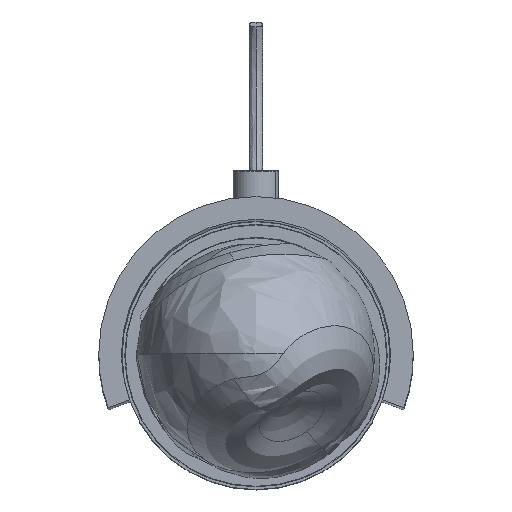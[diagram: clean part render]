
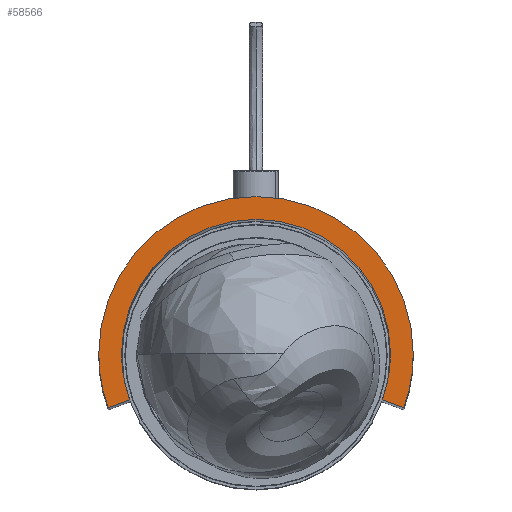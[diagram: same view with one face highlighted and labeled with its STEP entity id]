
A CAD part, top view. The second image highlights one B-rep face of the part: STEP entity #58566.
In plain terms, the highlighted planar face has unit normal (0, 0, 1).
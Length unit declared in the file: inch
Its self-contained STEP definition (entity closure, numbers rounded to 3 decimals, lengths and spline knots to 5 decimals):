
#10679 = EDGE_CURVE ( 'NONE', #316543, #256345, #110939, .T. ) ;
#10718 = DIRECTION ( 'NONE',  ( 1., 0., 0. ) ) ;
#15625 = EDGE_LOOP ( 'NONE', ( #257115, #204282, #347629, #168677, #71803, #319605, #48943, #280966 ) ) ;
#33078 = CARTESIAN_POINT ( 'NONE',  ( 0., 0., 12. ) ) ;
#35109 = DIRECTION ( 'NONE',  ( 0., 0., -1. ) ) ;
#36732 = CARTESIAN_POINT ( 'NONE',  ( 2.40473, -0.87525, 12. ) ) ;
#42752 = CARTESIAN_POINT ( 'NONE',  ( 0., 0., 12. ) ) ;
#48943 = ORIENTED_EDGE ( 'NONE', *, *, #67003, .F. ) ;
#54466 = EDGE_CURVE ( 'NONE', #258612, #152037, #265897, .T. ) ;
#58566 = ADVANCED_FACE ( 'NONE', ( #342252 ), #146226, .T. ) ;
#62061 = VECTOR ( 'NONE', #321321, 39.37008 ) ;
#66940 = VERTEX_POINT ( 'NONE', #290475 ) ;
#67003 = EDGE_CURVE ( 'NONE', #66940, #184073, #345832, .T. ) ;
#67031 = VERTEX_POINT ( 'NONE', #74748 ) ;
#67435 = DIRECTION ( 'NONE',  ( 0.94, -0.342, 0. ) ) ;
#68124 = AXIS2_PLACEMENT_3D ( 'NONE', #316045, #98554, #228773 ) ;
#71803 = ORIENTED_EDGE ( 'NONE', *, *, #54466, .T. ) ;
#72266 = AXIS2_PLACEMENT_3D ( 'NONE', #253199, #231732, #10718 ) ;
#74748 = CARTESIAN_POINT ( 'NONE',  ( -2.55906, 0., 12. ) ) ;
#91840 = DIRECTION ( 'NONE',  ( 0., 0., -1. ) ) ;
#94170 = CARTESIAN_POINT ( 'NONE',  ( 2.6082, -0.94931, 12. ) ) ;
#98554 = DIRECTION ( 'NONE',  ( 0., 0., -1. ) ) ;
#104605 = CIRCLE ( 'NONE', #303888, 2.55906 ) ;
#110939 = CIRCLE ( 'NONE', #173562, 2.99213 ) ;
#112561 = DIRECTION ( 'NONE',  ( 0., 0., -1. ) ) ;
#122693 = CARTESIAN_POINT ( 'NONE',  ( -2.99213, 0., 12. ) ) ;
#124768 = DIRECTION ( 'NONE',  ( 0., 0., -1. ) ) ;
#132609 = CARTESIAN_POINT ( 'NONE',  ( 2.55906, 0., 12. ) ) ;
#143876 = DIRECTION ( 'NONE',  ( -1., 0., 0. ) ) ;
#145068 = EDGE_CURVE ( 'NONE', #316543, #223356, #187600, .T. ) ;
#146226 = PLANE ( 'NONE',  #72266 ) ;
#152037 = VERTEX_POINT ( 'NONE', #36732 ) ;
#167837 = DIRECTION ( 'NONE',  ( -1., 0., 0. ) ) ;
#168603 = DIRECTION ( 'NONE',  ( -1., 0., 0. ) ) ;
#168677 = ORIENTED_EDGE ( 'NONE', *, *, #247271, .T. ) ;
#173562 = AXIS2_PLACEMENT_3D ( 'NONE', #42752, #124768, #292235 ) ;
#180579 = CARTESIAN_POINT ( 'NONE',  ( -2.40473, -0.87525, 12. ) ) ;
#184073 = VERTEX_POINT ( 'NONE', #269081 ) ;
#187600 = LINE ( 'NONE', #244559, #62061 ) ;
#204282 = ORIENTED_EDGE ( 'NONE', *, *, #145068, .T. ) ;
#217622 = VECTOR ( 'NONE', #67435, 39.37008 ) ;
#221828 = CIRCLE ( 'NONE', #68124, 2.99213 ) ;
#223356 = VERTEX_POINT ( 'NONE', #180579 ) ;
#223548 = EDGE_CURVE ( 'NONE', #256345, #66940, #221828, .T. ) ;
#228773 = DIRECTION ( 'NONE',  ( -1., 0., 0. ) ) ;
#231732 = DIRECTION ( 'NONE',  ( 0., 0., 1. ) ) ;
#237662 = AXIS2_PLACEMENT_3D ( 'NONE', #295703, #350960, #315467 ) ;
#242389 = CARTESIAN_POINT ( 'NONE',  ( -2.81168, -1.02337, 12. ) ) ;
#244559 = CARTESIAN_POINT ( 'NONE',  ( -2.81168, -1.02337, 12. ) ) ;
#247271 = EDGE_CURVE ( 'NONE', #67031, #258612, #308496, .T. ) ;
#253199 = CARTESIAN_POINT ( 'NONE',  ( 0.26133, 0.4375, 12. ) ) ;
#255738 = EDGE_CURVE ( 'NONE', #152037, #184073, #338421, .T. ) ;
#256345 = VERTEX_POINT ( 'NONE', #122693 ) ;
#257115 = ORIENTED_EDGE ( 'NONE', *, *, #10679, .F. ) ;
#258612 = VERTEX_POINT ( 'NONE', #132609 ) ;
#265897 = CIRCLE ( 'NONE', #294137, 2.55906 ) ;
#269081 = CARTESIAN_POINT ( 'NONE',  ( 2.81168, -1.02337, 12. ) ) ;
#274385 = AXIS2_PLACEMENT_3D ( 'NONE', #274785, #112561, #167837 ) ;
#274785 = CARTESIAN_POINT ( 'NONE',  ( 0., 0., 12. ) ) ;
#280966 = ORIENTED_EDGE ( 'NONE', *, *, #223548, .F. ) ;
#290475 = CARTESIAN_POINT ( 'NONE',  ( 2.99213, 0., 12. ) ) ;
#292235 = DIRECTION ( 'NONE',  ( -1., 0., 0. ) ) ;
#294137 = AXIS2_PLACEMENT_3D ( 'NONE', #336367, #35109, #143876 ) ;
#295703 = CARTESIAN_POINT ( 'NONE',  ( 0., 0., 12. ) ) ;
#303888 = AXIS2_PLACEMENT_3D ( 'NONE', #33078, #91840, #168603 ) ;
#308496 = CIRCLE ( 'NONE', #274385, 2.55906 ) ;
#315467 = DIRECTION ( 'NONE',  ( -1., 0., 0. ) ) ;
#316045 = CARTESIAN_POINT ( 'NONE',  ( 0., 0., 12. ) ) ;
#316543 = VERTEX_POINT ( 'NONE', #242389 ) ;
#319605 = ORIENTED_EDGE ( 'NONE', *, *, #255738, .T. ) ;
#321321 = DIRECTION ( 'NONE',  ( 0.94, 0.342, 0. ) ) ;
#330986 = EDGE_CURVE ( 'NONE', #223356, #67031, #104605, .T. ) ;
#336367 = CARTESIAN_POINT ( 'NONE',  ( 0., 0., 12. ) ) ;
#338421 = LINE ( 'NONE', #94170, #217622 ) ;
#342252 = FACE_OUTER_BOUND ( 'NONE', #15625, .T. ) ;
#345832 = CIRCLE ( 'NONE', #237662, 2.99213 ) ;
#347629 = ORIENTED_EDGE ( 'NONE', *, *, #330986, .T. ) ;
#350960 = DIRECTION ( 'NONE',  ( 0., 0., -1. ) ) ;
